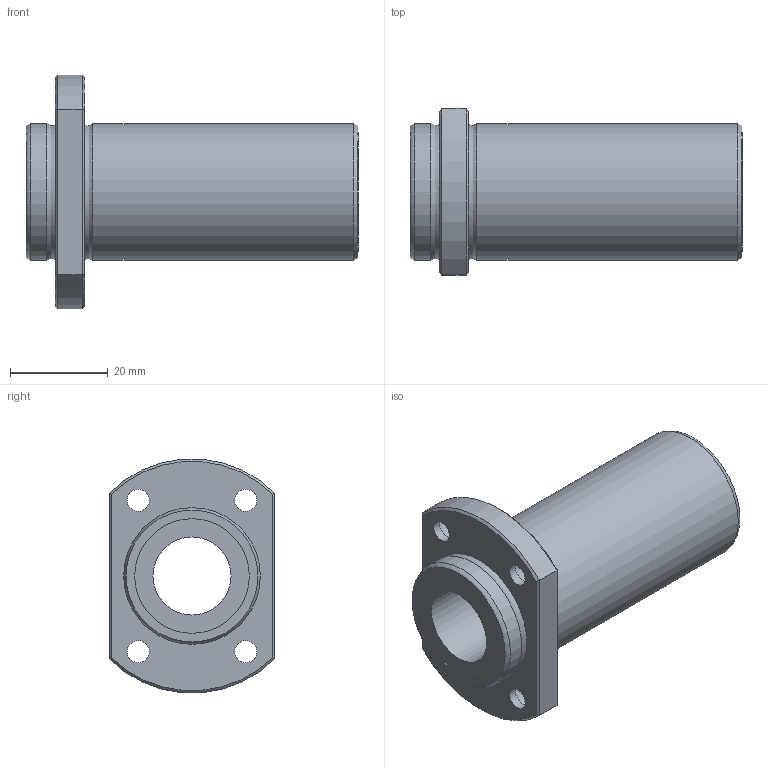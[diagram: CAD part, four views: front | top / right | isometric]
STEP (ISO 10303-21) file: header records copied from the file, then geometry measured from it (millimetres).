
FILE_DESCRIPTION((''),'2;1');
FILE_NAME('D:\製品 (図面)\カタログ用3D\リニアベアリング関連\STEP形式\LFDTB\LFDTB16B.stp','2010-06-03T09:51:13',('Tsuchiya'),(''),'Autodesk Inventor 10','Autodesk Inventor 10','');
FILE_SCHEMA(('AUTOMOTIVE_DESIGN { 1 0 10303 214 1 1 1 1 }'));
Length unit declared in the file: millimetre
Products named in the file (1): LFDTB16B
Bounding box: 68 x 34 x 47.82 mm (x, y, z)
Volume: 32217.9 mm3; surface area: 12603.9 mm2
Topology: 1 solids, 1 shells, 39 faces, 75 edges, 46 vertices
Faces by surface type: bspline 14, plane 12, cylinder 7, cone 4, torus 2
Full cylindrical faces by diameter (mm): 16 x1, 23.5 x2, 28 x2
Entity records: 1177 total; most frequent: CARTESIAN_POINT 440, DIRECTION 140, ORIENTED_EDGE 116, EDGE_LOOP 74, AXIS2_PLACEMENT_3D 64, EDGE_CURVE 58, VERTEX_POINT 46, FACE_OUTER_BOUND 39
